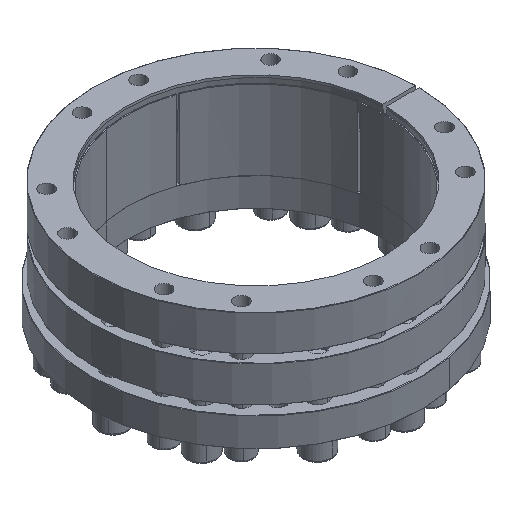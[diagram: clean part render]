
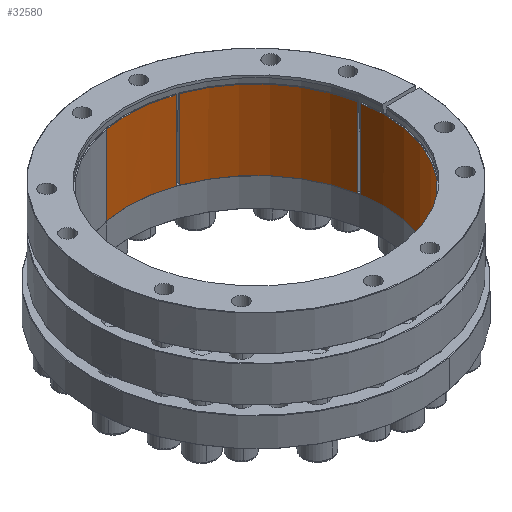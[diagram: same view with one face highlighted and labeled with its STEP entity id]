
A CAD part, isometric view. The second image highlights one B-rep face of the part: STEP entity #32580.
In plain terms, the highlighted cylindrical face has radius 160 mm (diameter 320 mm), a partial arc.
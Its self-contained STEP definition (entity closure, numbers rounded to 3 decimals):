
#903 = VECTOR ( 'NONE', #37104, 1000. ) ;
#1413 = VECTOR ( 'NONE', #34656, 1000. ) ;
#1704 = DIRECTION ( 'NONE',  ( -0.182, 0.983, 0. ) ) ;
#2309 = CARTESIAN_POINT ( 'NONE',  ( 0., 0., -9.005 ) ) ;
#2490 = DIRECTION ( 'NONE',  ( 0., 0., -1. ) ) ;
#2638 = VERTEX_POINT ( 'NONE', #28332 ) ;
#2791 = CARTESIAN_POINT ( 'NONE',  ( 51.756, 151.398, -107.505 ) ) ;
#2833 = DIRECTION ( 'NONE',  ( 0., 0., 1. ) ) ;
#3505 = CARTESIAN_POINT ( 'NONE',  ( 0., 0., -9.005 ) ) ;
#3701 = CARTESIAN_POINT ( 'NONE',  ( 0., 0., -9.005 ) ) ;
#3703 = VERTEX_POINT ( 'NONE', #10043 ) ;
#3804 = CARTESIAN_POINT ( 'NONE',  ( 156.992, 30.877, -9.005 ) ) ;
#3896 = EDGE_CURVE ( 'NONE', #9432, #18924, #16413, .T. ) ;
#3909 = ORIENTED_EDGE ( 'NONE', *, *, #28804, .T. ) ;
#4140 = AXIS2_PLACEMENT_3D ( 'NONE', #28433, #11018, #31345 ) ;
#4398 = AXIS2_PLACEMENT_3D ( 'NONE', #2309, #22726, #5271 ) ;
#4560 = ORIENTED_EDGE ( 'NONE', *, *, #12002, .T. ) ;
#4758 = DIRECTION ( 'NONE',  ( 0., 0., 1. ) ) ;
#5271 = DIRECTION ( 'NONE',  ( 0.182, -0.983, 0. ) ) ;
#5678 = EDGE_CURVE ( 'NONE', #2638, #20095, #25926, .T. ) ;
#5828 = AXIS2_PLACEMENT_3D ( 'NONE', #3505, #6456, #35562 ) ;
#5832 = CARTESIAN_POINT ( 'NONE',  ( 55.056, 150.229, -107.505 ) ) ;
#5888 = EDGE_CURVE ( 'NONE', #31986, #28935, #19070, .T. ) ;
#6107 = ORIENTED_EDGE ( 'NONE', *, *, #15950, .T. ) ;
#6170 = CARTESIAN_POINT ( 'NONE',  ( 29.158, -157.321, -108.005 ) ) ;
#6432 = VERTEX_POINT ( 'NONE', #2791 ) ;
#6456 = DIRECTION ( 'NONE',  ( 0., 0., 1. ) ) ;
#6541 = AXIS2_PLACEMENT_3D ( 'NONE', #20313, #2833, #23218 ) ;
#6667 = DIRECTION ( 'NONE',  ( 0.182, -0.983, 0. ) ) ;
#6755 = FACE_OUTER_BOUND ( 'NONE', #20329, .T. ) ;
#8116 = CARTESIAN_POINT ( 'NONE',  ( 102.575, -122.794, -9.005 ) ) ;
#8939 = CARTESIAN_POINT ( 'NONE',  ( 29.158, -157.321, -9.005 ) ) ;
#9075 = CARTESIAN_POINT ( 'NONE',  ( -29.158, 157.321, -9.005 ) ) ;
#9432 = VERTEX_POINT ( 'NONE', #8116 ) ;
#10043 = CARTESIAN_POINT ( 'NONE',  ( 51.756, 151.398, -9.005 ) ) ;
#10449 = VECTOR ( 'NONE', #2490, 1000. ) ;
#10733 = EDGE_CURVE ( 'NONE', #33153, #31986, #17594, .T. ) ;
#11018 = DIRECTION ( 'NONE',  ( 0., 0., 1. ) ) ;
#11713 = ORIENTED_EDGE ( 'NONE', *, *, #22162, .T. ) ;
#12002 = EDGE_CURVE ( 'NONE', #18924, #23337, #35602, .T. ) ;
#12519 = AXIS2_PLACEMENT_3D ( 'NONE', #13062, #33373, #15977 ) ;
#12817 = ORIENTED_EDGE ( 'NONE', *, *, #25533, .T. ) ;
#13062 = CARTESIAN_POINT ( 'NONE',  ( 0., 0., -9.005 ) ) ;
#13251 = AXIS2_PLACEMENT_3D ( 'NONE', #15438, #35752, #18349 ) ;
#13872 = VECTOR ( 'NONE', #26482, 1000. ) ;
#14366 = VECTOR ( 'NONE', #24189, 1000. ) ;
#14607 = LINE ( 'NONE', #31996, #30045 ) ;
#14785 = LINE ( 'NONE', #9075, #13872 ) ;
#15065 = ORIENTED_EDGE ( 'NONE', *, *, #22871, .T. ) ;
#15184 = DIRECTION ( 'NONE',  ( 0., 0., 1. ) ) ;
#15293 = CARTESIAN_POINT ( 'NONE',  ( 157.63, 27.435, -9.005 ) ) ;
#15438 = CARTESIAN_POINT ( 'NONE',  ( 0., 0., -107.505 ) ) ;
#15950 = EDGE_CURVE ( 'NONE', #28935, #30397, #21385, .T. ) ;
#15977 = DIRECTION ( 'NONE',  ( 0.182, -0.983, 0. ) ) ;
#16254 = CARTESIAN_POINT ( 'NONE',  ( 102.575, -122.794, -107.505 ) ) ;
#16413 = LINE ( 'NONE', #31364, #903 ) ;
#16671 = VERTEX_POINT ( 'NONE', #24181 ) ;
#17471 = CIRCLE ( 'NONE', #13251, 160. ) ;
#17594 = CIRCLE ( 'NONE', #12519, 160. ) ;
#17841 = LINE ( 'NONE', #23112, #1413 ) ;
#17959 = AXIS2_PLACEMENT_3D ( 'NONE', #22222, #4758, #25135 ) ;
#18349 = DIRECTION ( 'NONE',  ( -0.182, 0.983, 0. ) ) ;
#18924 = VERTEX_POINT ( 'NONE', #16254 ) ;
#19070 = LINE ( 'NONE', #28781, #33625 ) ;
#19165 = DIRECTION ( 'NONE',  ( 0., 0., 1. ) ) ;
#19740 = LINE ( 'NONE', #24068, #23841 ) ;
#19954 = CARTESIAN_POINT ( 'NONE',  ( 55.056, 150.229, -9.005 ) ) ;
#20095 = VERTEX_POINT ( 'NONE', #5832 ) ;
#20313 = CARTESIAN_POINT ( 'NONE',  ( 0., 0., -107.505 ) ) ;
#20318 = ORIENTED_EDGE ( 'NONE', *, *, #29708, .T. ) ;
#20329 = EDGE_LOOP ( 'NONE', ( #31533, #28518, #15065, #3909, #26229, #4560, #20318, #28377, #32930, #6107, #22486, #11713, #35484, #12817, #37076, #32612 ) ) ;
#20510 = EDGE_CURVE ( 'NONE', #22348, #22226, #28755, .T. ) ;
#21385 = CIRCLE ( 'NONE', #6541, 160. ) ;
#22058 = CARTESIAN_POINT ( 'NONE',  ( 156.992, 30.877, -9.005 ) ) ;
#22162 = EDGE_CURVE ( 'NONE', #33176, #2638, #24426, .T. ) ;
#22222 = CARTESIAN_POINT ( 'NONE',  ( 0., 0., -108.005 ) ) ;
#22226 = VERTEX_POINT ( 'NONE', #28800 ) ;
#22348 = VERTEX_POINT ( 'NONE', #6170 ) ;
#22486 = ORIENTED_EDGE ( 'NONE', *, *, #33423, .T. ) ;
#22726 = DIRECTION ( 'NONE',  ( 0., 0., 1. ) ) ;
#22871 = EDGE_CURVE ( 'NONE', #22348, #27066, #19740, .T. ) ;
#23112 = CARTESIAN_POINT ( 'NONE',  ( 51.756, 151.398, -9.005 ) ) ;
#23218 = DIRECTION ( 'NONE',  ( -0.182, 0.983, 0. ) ) ;
#23337 = VERTEX_POINT ( 'NONE', #32263 ) ;
#23538 = AXIS2_PLACEMENT_3D ( 'NONE', #36567, #19165, #1704 ) ;
#23841 = VECTOR ( 'NONE', #15184, 1000. ) ;
#24068 = CARTESIAN_POINT ( 'NONE',  ( 29.158, -157.321, -9.005 ) ) ;
#24090 = DIRECTION ( 'NONE',  ( 0., 0., 1. ) ) ;
#24181 = CARTESIAN_POINT ( 'NONE',  ( -29.158, 157.321, -9.005 ) ) ;
#24189 = DIRECTION ( 'NONE',  ( 0., 0., 1. ) ) ;
#24426 = CIRCLE ( 'NONE', #4398, 160. ) ;
#25135 = DIRECTION ( 'NONE',  ( 0.182, -0.983, 0. ) ) ;
#25533 = EDGE_CURVE ( 'NONE', #20095, #6432, #17471, .T. ) ;
#25926 = LINE ( 'NONE', #19954, #10449 ) ;
#26229 = ORIENTED_EDGE ( 'NONE', *, *, #3896, .T. ) ;
#26482 = DIRECTION ( 'NONE',  ( 0., 0., 1. ) ) ;
#27066 = VERTEX_POINT ( 'NONE', #8939 ) ;
#27408 = AXIS2_PLACEMENT_3D ( 'NONE', #3701, #24090, #6667 ) ;
#27590 = CARTESIAN_POINT ( 'NONE',  ( 156.992, 30.877, -107.505 ) ) ;
#28332 = CARTESIAN_POINT ( 'NONE',  ( 55.056, 150.229, -9.005 ) ) ;
#28377 = ORIENTED_EDGE ( 'NONE', *, *, #10733, .T. ) ;
#28433 = CARTESIAN_POINT ( 'NONE',  ( 0., 0., -9.005 ) ) ;
#28518 = ORIENTED_EDGE ( 'NONE', *, *, #20510, .F. ) ;
#28750 = EDGE_CURVE ( 'NONE', #22226, #16671, #14785, .T. ) ;
#28755 = CIRCLE ( 'NONE', #17959, 160. ) ;
#28781 = CARTESIAN_POINT ( 'NONE',  ( 157.63, 27.435, -9.005 ) ) ;
#28800 = CARTESIAN_POINT ( 'NONE',  ( -29.158, 157.321, -108.005 ) ) ;
#28804 = EDGE_CURVE ( 'NONE', #27066, #9432, #29743, .T. ) ;
#28935 = VERTEX_POINT ( 'NONE', #33733 ) ;
#29708 = EDGE_CURVE ( 'NONE', #23337, #33153, #14607, .T. ) ;
#29743 = CIRCLE ( 'NONE', #27408, 160. ) ;
#30045 = VECTOR ( 'NONE', #31869, 1000. ) ;
#30397 = VERTEX_POINT ( 'NONE', #27590 ) ;
#30424 = CARTESIAN_POINT ( 'NONE',  ( 105.236, -120.521, -9.005 ) ) ;
#31345 = DIRECTION ( 'NONE',  ( 0.182, -0.983, 0. ) ) ;
#31364 = CARTESIAN_POINT ( 'NONE',  ( 102.575, -122.794, -9.005 ) ) ;
#31533 = ORIENTED_EDGE ( 'NONE', *, *, #28750, .F. ) ;
#31694 = DIRECTION ( 'NONE',  ( 0., 0., -1. ) ) ;
#31869 = DIRECTION ( 'NONE',  ( 0., 0., 1. ) ) ;
#31986 = VERTEX_POINT ( 'NONE', #15293 ) ;
#31996 = CARTESIAN_POINT ( 'NONE',  ( 105.236, -120.521, -9.005 ) ) ;
#32263 = CARTESIAN_POINT ( 'NONE',  ( 105.236, -120.521, -107.505 ) ) ;
#32580 = ADVANCED_FACE ( 'NONE', ( #6755 ), #34016, .F. ) ;
#32612 = ORIENTED_EDGE ( 'NONE', *, *, #37105, .T. ) ;
#32885 = CIRCLE ( 'NONE', #4140, 160. ) ;
#32930 = ORIENTED_EDGE ( 'NONE', *, *, #5888, .T. ) ;
#33153 = VERTEX_POINT ( 'NONE', #30424 ) ;
#33176 = VERTEX_POINT ( 'NONE', #22058 ) ;
#33373 = DIRECTION ( 'NONE',  ( 0., 0., 1. ) ) ;
#33423 = EDGE_CURVE ( 'NONE', #30397, #33176, #36619, .T. ) ;
#33625 = VECTOR ( 'NONE', #31694, 1000. ) ;
#33733 = CARTESIAN_POINT ( 'NONE',  ( 157.63, 27.435, -107.505 ) ) ;
#34016 = CYLINDRICAL_SURFACE ( 'NONE', #5828, 160. ) ;
#34656 = DIRECTION ( 'NONE',  ( 0., 0., 1. ) ) ;
#35484 = ORIENTED_EDGE ( 'NONE', *, *, #5678, .T. ) ;
#35559 = EDGE_CURVE ( 'NONE', #6432, #3703, #17841, .T. ) ;
#35562 = DIRECTION ( 'NONE',  ( 0.182, -0.983, 0. ) ) ;
#35602 = CIRCLE ( 'NONE', #23538, 160. ) ;
#35752 = DIRECTION ( 'NONE',  ( 0., 0., 1. ) ) ;
#36567 = CARTESIAN_POINT ( 'NONE',  ( 0., 0., -107.505 ) ) ;
#36619 = LINE ( 'NONE', #3804, #14366 ) ;
#37076 = ORIENTED_EDGE ( 'NONE', *, *, #35559, .T. ) ;
#37104 = DIRECTION ( 'NONE',  ( 0., 0., -1. ) ) ;
#37105 = EDGE_CURVE ( 'NONE', #3703, #16671, #32885, .T. ) ;
